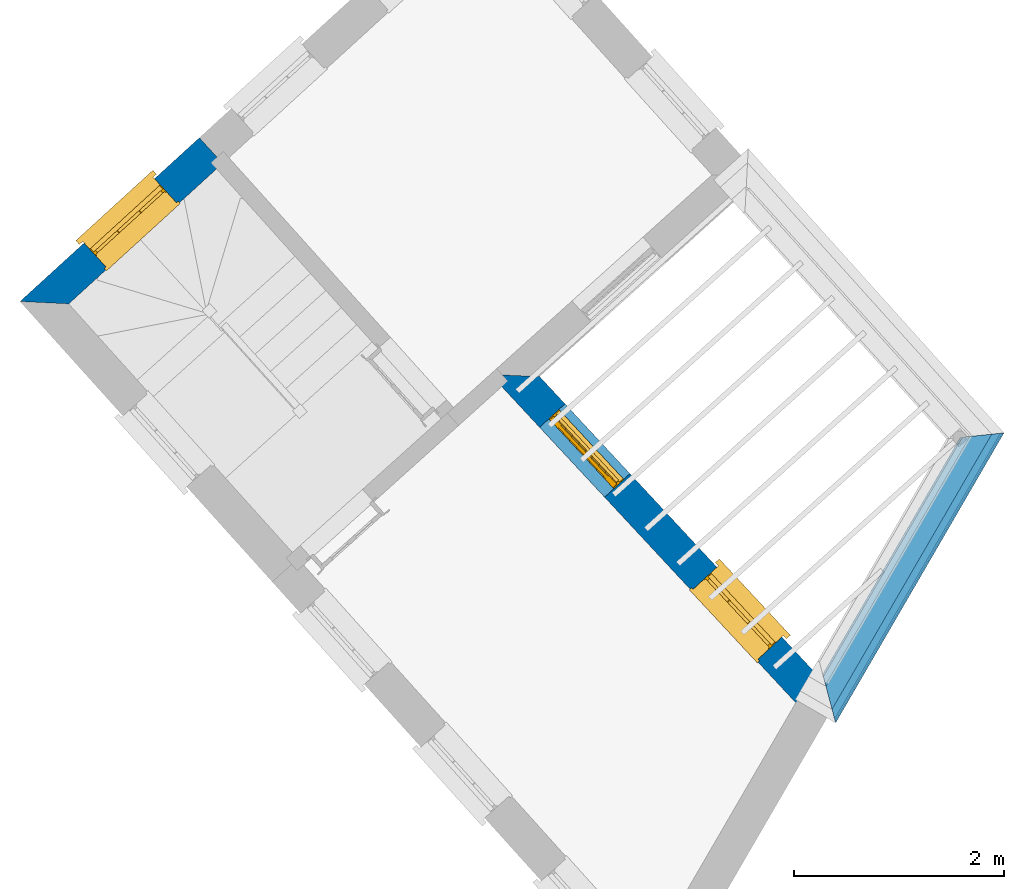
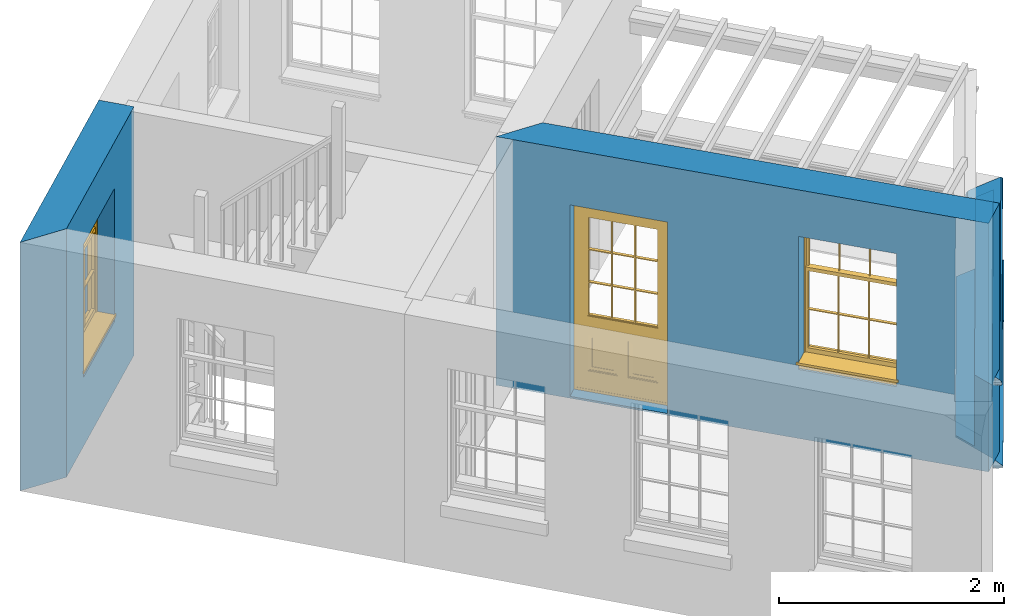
# One storey, part 3 of 7: 5 walls, 2 windows, 1 door, 3 openings.
"""IFC4 building model written with IfcOpenShell, lengths in metres."""

import ifcopenshell
import ifcopenshell.guid

model = None  # the IFC model being written
_history = None  # IfcOwnerHistory: only IFC2X3 demands one
_inside = {}  # id of a spatial element -> (the spatial element, [elements in it])
_under = {}  # id of a project, library or spatial element -> (it, [spatial elements below it])
_declared = {}  # id of a project -> (the project, [libraries it declares])
_typed = {}  # id of a type object -> (the type object, [elements of that type])
_made_of = {}  # id of a material, layer set ... -> (it, [elements and type objects made of it])


def new_model(schema):
    """Start an empty IFC model of exactly this schema.

    Asked for "IFC4X3", IfcOpenShell would pick the latest addendum, in which some entities
    have other attributes; the version numbers below select the first issue.
    IFC2X3 requires an IfcOwnerHistory on every rooted entity: one is made here for all.
    """
    global model, _history
    if schema == "IFC4X3":
        model = ifcopenshell.file(schema_version=(4, 3, 0, 0))
    else:
        model = ifcopenshell.file(schema=schema)
    _inside.clear()
    _under.clear()
    _declared.clear()
    _typed.clear()
    _made_of.clear()
    _history = None
    if model.schema == "IFC2X3":
        org = make("IfcOrganization", Name="unknown")
        user = make(
            "IfcPersonAndOrganization",
            ThePerson=make("IfcPerson", FamilyName="unknown"),
            TheOrganization=org,
        )
        app = make(
            "IfcApplication",
            ApplicationDeveloper=org,
            Version="unknown",
            ApplicationFullName="unknown",
            ApplicationIdentifier="unknown",
        )
        _history = make(
            "IfcOwnerHistory",
            OwningUser=user,
            OwningApplication=app,
            ChangeAction="ADDED",
            CreationDate=0,
        )
    return model


def make(cls, **values):
    """One entity of the class cls with the attributes given. An attribute that is None is left unset."""
    return model.create_entity(
        cls, **{name: value for name, value in values.items() if value is not None}
    )


def rooted(cls, **values):
    """An entity with a GlobalId (a new one), such as an element, a storey or a relation."""
    return make(cls, GlobalId=ifcopenshell.guid.new(), OwnerHistory=_history, **values)


def si_unit(unit_type, name, prefix=None):
    """IfcSIUnit, for example si_unit("LENGTHUNIT", "METRE", prefix="MILLI")."""
    return make("IfcSIUnit", UnitType=unit_type, Prefix=prefix, Name=name)


def assignment(units):
    """IfcUnitAssignment: the units of a project."""
    return None if units is None else make("IfcUnitAssignment", Units=units)


def point(xyz):
    """IfcCartesianPoint."""
    return None if xyz is None else make("IfcCartesianPoint", Coordinates=xyz)


def direction(xyz):
    """IfcDirection."""
    return None if xyz is None else make("IfcDirection", DirectionRatios=xyz)


def frame(location, z_axis=None, x_axis=None):
    """IfcAxis2Placement3D, a coordinate frame: its origin and axes. An axis left out is left unset."""
    return make(
        "IfcAxis2Placement3D",
        Location=point(location),
        Axis=direction(z_axis),
        RefDirection=direction(x_axis),
    )


def origin():
    """The frame at (0, 0, 0) with its axes left unset."""
    return frame((0.0, 0.0, 0.0))


def origin_with_axes():
    """The frame at (0, 0, 0) with the z axis (0, 0, 1) and the x axis (1, 0, 0) written out."""
    return frame((0.0, 0.0, 0.0), z_axis=(0.0, 0.0, 1.0), x_axis=(1.0, 0.0, 0.0))


def place(relative_to, where):
    """IfcLocalPlacement: puts the frame where relative to a parent placement (None: the world)."""
    return make(
        "IfcLocalPlacement", PlacementRelTo=relative_to, RelativePlacement=where
    )


def context(
    kind, dimensions, precision=None, world=None, true_north=None, identifier=None
):
    """IfcGeometricRepresentationContext, for example the 3D "Model" context."""
    return make(
        "IfcGeometricRepresentationContext",
        ContextIdentifier=identifier,
        ContextType=kind,
        CoordinateSpaceDimension=dimensions,
        Precision=precision,
        WorldCoordinateSystem=world,
        TrueNorth=true_north,
    )


def subcontext(parent, identifier, kind, view, scale=None):
    """IfcGeometricRepresentationSubContext, for example "Body" below "Model"."""
    return make(
        "IfcGeometricRepresentationSubContext",
        ContextIdentifier=identifier,
        ContextType=kind,
        ParentContext=parent,
        TargetScale=scale,
        TargetView=view,
    )


def project(units=None, contexts=None):
    """IfcProject with its units and contexts."""
    return rooted(
        "IfcProject",
        Name="project",
        RepresentationContexts=contexts,
        UnitsInContext=assignment(units),
    )


def spatial(cls, under=None, at=None, **own):
    """A site, building, storey or space (cls), placed at a placement, below another one or the project."""
    s = rooted(cls, ObjectPlacement=at, **own)
    if under is not None:
        _under.setdefault(under.id(), (under, []))[1].append(s)
    return s


def polyline(points):
    """IfcPolyline through the points."""
    return make("IfcPolyline", Points=[point(p) for p in points])


def outline(outer, holes=None, kind="AREA"):
    """IfcArbitraryClosedProfileDef: a profile drawn as a closed curve; with holes, ...WithVoids."""
    if holes is None:
        return make("IfcArbitraryClosedProfileDef", ProfileType=kind, OuterCurve=outer)
    return make(
        "IfcArbitraryProfileDefWithVoids",
        ProfileType=kind,
        OuterCurve=outer,
        InnerCurves=holes,
    )


def extrude(swept, where, along, depth):
    """IfcExtrudedAreaSolid: the profile swept, set in the frame where, extruded along a direction by depth."""
    return make(
        "IfcExtrudedAreaSolid",
        SweptArea=swept,
        Position=where,
        ExtrudedDirection=direction(along),
        Depth=depth,
    )


def clip(a, b, op="DIFFERENCE"):
    """IfcBooleanClippingResult: the solid a cut by the half space b."""
    return make(
        "IfcBooleanClippingResult", Operator=op, FirstOperand=a, SecondOperand=b
    )


def halfspace(plane, agree):
    """IfcHalfSpaceSolid: all space on one side of the plane z = 0 of the frame plane."""
    return make(
        "IfcHalfSpaceSolid",
        BaseSurface=make("IfcPlane", Position=plane),
        AgreementFlag=agree,
    )


def faces_of(points, faces, orient=None, outer=None):
    """IfcFace entities. A face is a list of loops; a loop is a list of indices into points, from 0.

    orient and outer hold one flag for each loop. By default every Orientation is true, the
    first loop of a face is its IfcFaceOuterBound and the others are IfcFaceBound.
    """
    made = []
    for i, loops in enumerate(faces):
        bounds = []
        for j, loop in enumerate(loops):
            is_outer = j == 0 if outer is None else outer[i][j]
            bounds.append(
                make(
                    "IfcFaceOuterBound" if is_outer else "IfcFaceBound",
                    Bound=make("IfcPolyLoop", Polygon=[points[k] for k in loop]),
                    Orientation=True if orient is None else orient[i][j],
                )
            )
        made.append(make("IfcFace", Bounds=bounds))
    return made


def faceted_brep(points, faces, orient=None, outer=None, voids=None):
    """IfcFacetedBrep: a solid bounded by flat faces; with voids (closed shells), ...WithVoids."""
    shared = [point(p) for p in points]
    hull = make("IfcClosedShell", CfsFaces=faces_of(shared, faces, orient, outer))
    if voids is None:
        return make("IfcFacetedBrep", Outer=hull)
    return make(
        "IfcFacetedBrepWithVoids",
        Outer=hull,
        Voids=[
            make(cls, CfsFaces=faces_of(shared, fs, o, b)) for cls, fs, o, b in voids
        ],
    )


def shape(context_of_items, identifier, shape_type, items):
    """IfcShapeRepresentation: the items that make up one representation, for example the "Body"."""
    return make(
        "IfcShapeRepresentation",
        ContextOfItems=context_of_items,
        RepresentationIdentifier=identifier,
        RepresentationType=shape_type,
        Items=items,
    )


def source(mapping_origin, context_of_items, identifier, shape_type, items):
    """IfcRepresentationMap: a shape defined once, which mapped items show again and again."""
    return make(
        "IfcRepresentationMap",
        MappingOrigin=mapping_origin,
        MappedRepresentation=shape(context_of_items, identifier, shape_type, items),
    )


def transform(
    local_origin,
    x_axis=None,
    y_axis=None,
    z_axis=None,
    scale=None,
    scale2=None,
    scale3=None,
    uniform=True,
):
    """IfcCartesianTransformationOperator3D, or its non-uniform kind. x_axis, y_axis, z_axis: its Axis1, 2, 3."""
    if uniform:
        return make(
            "IfcCartesianTransformationOperator3D",
            Axis1=direction(x_axis),
            Axis2=direction(y_axis),
            LocalOrigin=point(local_origin),
            Scale=scale,
            Axis3=direction(z_axis),
        )
    return make(
        "IfcCartesianTransformationOperator3DnonUniform",
        Axis1=direction(x_axis),
        Axis2=direction(y_axis),
        LocalOrigin=point(local_origin),
        Scale=scale,
        Axis3=direction(z_axis),
        Scale2=scale2,
        Scale3=scale3,
    )


def mapped(mapping_source, mapping_target):
    """IfcMappedItem: shows the shape of a source again, moved by a transform."""
    return make(
        "IfcMappedItem", MappingSource=mapping_source, MappingTarget=mapping_target
    )


def material(Name=None, Category=None):
    """IfcMaterial."""
    return make("IfcMaterial", Name=Name, Category=Category)


def layer(
    of_material, thickness, ventilated=None, Name=None, Category=None, Priority=None
):
    """IfcMaterialLayer: one layer of a wall or slab, of a material (None: an air gap)."""
    return make(
        "IfcMaterialLayer",
        Material=of_material,
        LayerThickness=thickness,
        IsVentilated=ventilated,
        Name=Name,
        Category=Category,
        Priority=Priority,
    )


def layer_set(layers, Name=None):
    """IfcMaterialLayerSet."""
    return make("IfcMaterialLayerSet", MaterialLayers=layers, LayerSetName=Name)


def layer_usage(for_layer_set, set_direction, sense, offset, extent=None):
    """IfcMaterialLayerSetUsage: how a layer set lies in its element."""
    return make(
        "IfcMaterialLayerSetUsage",
        ForLayerSet=for_layer_set,
        LayerSetDirection=set_direction,
        DirectionSense=sense,
        OffsetFromReferenceLine=offset,
        ReferenceExtent=extent,
    )


def material_profile(
    of_material, cross_section, Name=None, Category=None, Priority=None
):
    """IfcMaterialProfile: a cross section and its material."""
    return make(
        "IfcMaterialProfile",
        Name=Name,
        Material=of_material,
        Profile=cross_section,
        Priority=Priority,
        Category=Category,
    )


def profile_set(profiles, Name=None, composite=None):
    """IfcMaterialProfileSet."""
    return make(
        "IfcMaterialProfileSet",
        Name=Name,
        MaterialProfiles=profiles,
        CompositeProfile=composite,
    )


def profile_usage(for_profile_set, cardinal=None, extent=None):
    """IfcMaterialProfileSetUsage: how a profile set lies along its element."""
    return make(
        "IfcMaterialProfileSetUsage",
        ForProfileSet=for_profile_set,
        CardinalPoint=cardinal,
        ReferenceExtent=extent,
    )


def made_of(thing, what):
    """Note that an element or type object is made of a material, layer set ...; save() writes the relation."""
    if what is not None:
        _made_of.setdefault(what.id(), (what, []))[1].append(thing)
    return thing


def type_object(cls, material=None, **own):
    """A type object (cls), such as IfcWallType, which elements share."""
    return made_of(rooted(cls, **own), material)


def type_shapes(of_type, sources):
    """Give a type object the sources (RepresentationMaps) that its elements show as mapped items."""
    of_type.RepresentationMaps = sources


def element(
    cls,
    number,
    at=None,
    inside=None,
    cuts=None,
    type_object=None,
    material=None,
    context=None,
    identifier="Body",
    shape_type=None,
    held_by="IfcProductDefinitionShape",
    body=None,
    shapes=None,
    **own,
):
    """One element of the class cls, such as IfcWall. Its Tag is "e" and its number.

    at: its placement. inside: the storey or other place that contains it. cuts: it is an
    opening in that element (IfcRelVoidsElement). A single representation is given by context,
    identifier, shape_type and body (its items); several are given by shapes. held_by: the class
    of the entity that holds the representations. save() writes the other relations.
    """
    e = rooted(cls, Tag="e%d" % number, ObjectPlacement=at, **own)
    if body is not None:
        shapes = [shape(context, identifier, shape_type, body)]
    if shapes is not None:
        e.Representation = make(held_by, Representations=shapes)
    if inside is not None:
        _inside.setdefault(inside.id(), (inside, []))[1].append(e)
    if cuts is not None:
        rooted(
            "IfcRelVoidsElement", RelatingBuildingElement=cuts, RelatedOpeningElement=e
        )
    if type_object is not None:
        _typed.setdefault(type_object.id(), (type_object, []))[1].append(e)
    return made_of(e, material)


def fill(opening, filler):
    """IfcRelFillsElement: the door or window that sits in an opening."""
    return rooted(
        "IfcRelFillsElement",
        RelatingOpeningElement=opening,
        RelatedBuildingElement=filler,
    )


def aggregate(whole, parts):
    """IfcRelAggregates: a whole, such as a stair, and the parts it consists of."""
    return rooted("IfcRelAggregates", RelatingObject=whole, RelatedObjects=parts)


def save(model, path):
    """Write the relations noted so far, then the file.

    IfcRelAggregates (storeys below a building ...), IfcRelContainedInSpatialStructure (elements
    in a storey), IfcRelDefinesByType, IfcRelAssociatesMaterial and IfcRelDeclares: one each for
    every whole, place, type object, material and project.
    """
    for whole, parts in _under.values():
        aggregate(whole, parts)
    for where, things in _inside.values():
        rooted(
            "IfcRelContainedInSpatialStructure",
            RelatedElements=things,
            RelatingStructure=where,
        )
    for kind, things in _typed.values():
        rooted("IfcRelDefinesByType", RelatedObjects=things, RelatingType=kind)
    for what, things in _made_of.values():
        rooted("IfcRelAssociatesMaterial", RelatedObjects=things, RelatingMaterial=what)
    for by, libraries in _declared.values():
        rooted("IfcRelDeclares", RelatingContext=by, RelatedDefinitions=libraries)
    model.write(path)


model = new_model("IFC4")

# Units and contexts
model_context = context("Model", 3, world=origin_with_axes())
body_context = subcontext(model_context, "Body", "Model", "MODEL_VIEW")
ifc_project = project(units=[si_unit("PLANEANGLEUNIT", "RADIAN"), si_unit("MASSUNIT", "GRAM", prefix="KILO"), si_unit("FORCEUNIT", "NEWTON", prefix="KILO"), si_unit("LENGTHUNIT", "METRE"), si_unit("AREAUNIT", "SQUARE_METRE"), si_unit("VOLUMEUNIT", "CUBIC_METRE")], contexts=[model_context, model_context])

# Sites, building, storey
site_1_placement = place(None, origin_with_axes())
site_1 = spatial("IfcSite", under=ifc_project, at=site_1_placement, Name="Tamar")
site_2_placement = place(site_1_placement, origin_with_axes())
site_2 = spatial("IfcSite", under=site_1, at=site_2_placement, Name="Site plot-7", CompositionType="ELEMENT")
building_placement = place(None, origin_with_axes())
building = spatial("IfcBuilding", under=site_2, at=building_placement, Name="Building plot-7", CompositionType="ELEMENT")
storey_placement = place(None, frame((0.0, 0.0, 29.15), z_axis=(0.0, 0.0, 1.0), x_axis=(1.0, 0.0, 0.0)))
storey = spatial("IfcBuildingStorey", under=building, at=storey_placement, Name="plot-7 1", CompositionType="ELEMENT", Elevation=29.15)

# Wall, openings, door, window
ifc_material = material(Name="Masonry")
ifc_layer = layer(ifc_material, 0.33, ventilated=False)
ifc_layer_set = layer_set([ifc_layer], Name="exterior_0.08_0.25")
ifc_layer_usage = layer_usage(ifc_layer_set, "AXIS2", "POSITIVE", -0.25)
wall_type_1 = type_object("IfcWallType", Name="exterior_0.08_0.25", PredefinedType="SOLIDWALL", material=ifc_layer_set)
wall_1_placement = place(storey_placement, frame((246.620136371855, 283.334783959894, 0.0), z_axis=(0.0, 0.0, 1.0), x_axis=(-0.681081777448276, 0.732207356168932, 0.0)))
wall_1 = element("IfcWall", 1, at=wall_1_placement, inside=storey, type_object=wall_type_1, material=ifc_layer_usage, Name="exterior", context=body_context, shape_type="SweptSolid", body=[
    extrude(outline(polyline([(-0.250000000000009, 0.0799999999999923), (-0.249999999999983, -0.250000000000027), (4.00223478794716, -0.250000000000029), (4.33774979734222, 0.0799999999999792), (-0.250000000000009, 0.0799999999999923)])), origin_with_axes(), (0.0, 0.0, 1.0), 2.7),
])
opening_1_placement = place(wall_1_placement, frame((0.609103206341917, 0.0, 0.75)))
opening_1 = element("IfcOpeningElement", 2, at=opening_1_placement, cuts=wall_1, Name="My Opening", ObjectType="Opening", context=body_context, shape_type="SweptSolid", body=[
    extrude(outline(polyline([(0.0, -0.269999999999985), (0.910000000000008, -0.270000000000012), (0.909999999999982, 1.10000000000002), (-2.59792187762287e-14, 1.10000000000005), (0.0, -0.269999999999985)])), origin_with_axes(), (0.0, 0.0, 1.0), 1.445),
])
opening_2_placement = place(wall_1_placement, frame((2.73730961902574, 0.0, 0.0199999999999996)))
opening_2 = element("IfcOpeningElement", 3, at=opening_2_placement, cuts=wall_1, Name="My Opening", ObjectType="Opening", context=body_context, shape_type="SweptSolid", body=[
    extrude(outline(polyline([(0.0, -0.270000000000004), (0.910000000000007, -0.270000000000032), (0.909999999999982, 1.1), (-2.57571741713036e-14, 1.10000000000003), (0.0, -0.270000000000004)])), origin_with_axes(), (0.0, 0.0, 1.0), 2.08),
])
door_type = type_object("IfcDoorType", Name="door_panelled", OperationType="SINGLE_SWING_LEFT", PredefinedType="NOTDEFINED")
shared_shape_1 = source(origin(), body_context, "Body", "Brep", [
    faceted_brep([(0.545, 0.195, 0.265), (0.745, 0.195, 0.265), (0.745, 0.2, 0.265), (0.545, 0.2, 0.265), (0.745, 0.2, 0.58), (0.545, 0.2, 0.58), (0.545, 0.195, 0.58), (0.515, 0.19, 0.235), (0.775, 0.19, 0.235), (0.745, 0.195, 0.58), (0.515, 0.19, 0.61), (0.515, 0.185, 0.235), (0.775, 0.185, 0.235), (0.775, 0.19, 0.61), (0.515, 0.185, 0.61), (0.785, 0.185, 0.225), (0.505, 0.185, 0.225), (0.775, 0.185, 0.61), (0.505, 0.185, 0.62), (0.785, 0.185, 0.62), (0.505, 0.18, 0.225), (0.785, 0.18, 0.225), (0.505, 0.18, 0.62), (0.785, 0.18, 0.62), (0.883, 0.18, 0.075), (0.898, 0.18, 0.075), (0.405, 0.18, 0.62), (0.405, 0.18, 0.225), (0.027, 0.18, 0.075), (0.785, 0.18, 0.82), (0.125, 0.18, 0.82), (0.405, 0.185, 0.62), (0.405, 0.185, 0.225), (0.898, 0.18, 2.068), (0.027, 0.17, 0.075), (0.883, 0.17, 0.075), (0.125, 0.18, 0.225), (0.012, 0.18, 0.075), (0.785, 0.19, 0.82), (0.125, 0.19, 0.82), (0.125, 0.18, 0.62), (0.125, 0.185, 0.62), (0.395, 0.185, 0.61), (0.395, 0.185, 0.235), (0.125, 0.185, 0.225), (0.785, 0.18, 1.895), (0.027, 0.14, 0.045), (0.883, 0.14, 0.045), (0.558333, 0.19, 0.83), (0.351667, 0.19, 0.83), (0.125, 0.18, 1.895), (0.125, 0.19, 1.895), (0.785, 0.19, 1.895), (0.012, 0.18, 2.068), (0.135, 0.185, 0.61), (0.395, 0.19, 0.61), (0.395, 0.19, 0.235), (0.135, 0.185, 0.235), (0.027, 0.14, 0.027), (0.883, 0.14, 0.027), (0.568333, 0.19, 0.83), (0.558333, 0.22, 0.83), (0.351667, 0.22, 0.83), (0.341667, 0.19, 0.83), (0.135, 0.19, 1.185), (0.135, 0.19, 1.53), (0.775, 0.19, 1.53), (0.775, 0.19, 1.185), (0.135, 0.19, 0.61), (0.365, 0.195, 0.58), (0.365, 0.195, 0.265), (0.135, 0.19, 0.235), (0.568333, 0.19, 1.175), (0.558333, 0.19, 1.175), (0.775, 0.19, 0.83), (0.558333, 0.22, 1.175), (0.785, 0.22, 0.82), (0.125, 0.22, 0.82), (0.351667, 0.22, 1.175), (0.351667, 0.19, 1.175), (0.341667, 0.19, 1.175), (0.135, 0.19, 0.83), (0.135, 0.19, 1.175), (0.135, 0.22, 1.185), (0.135, 0.22, 1.53), (0.135, 0.19, 1.54), (0.351667, 0.19, 1.885), (0.558333, 0.19, 1.885), (0.775, 0.22, 1.53), (0.775, 0.22, 1.185), (0.775, 0.19, 1.175), (0.775, 0.19, 1.54), (0.165, 0.195, 0.58), (0.365, 0.2, 0.58), (0.365, 0.2, 0.265), (0.165, 0.195, 0.265), (0.568333, 0.22, 0.83), (0.568333, 0.22, 1.175), (0.568333, 0.19, 1.185), (0.558333, 0.19, 1.185), (0.775, 0.22, 0.83), (0.785, 0.23, 0.82), (0.125, 0.23, 0.82), (0.341667, 0.22, 0.83), (0.341667, 0.22, 1.175), (0.351667, 0.19, 1.185), (0.341667, 0.19, 1.185), (0.135, 0.22, 0.83), (0.341667, 0.22, 1.185), (0.125, 0.22, 1.895), (0.341667, 0.22, 1.53), (0.341667, 0.19, 1.53), (0.135, 0.19, 1.885), (0.341667, 0.19, 1.54), (0.341667, 0.19, 1.885), (0.558333, 0.22, 1.885), (0.351667, 0.22, 1.885), (0.568333, 0.19, 1.885), (0.785, 0.22, 1.895), (0.568333, 0.22, 1.185), (0.568333, 0.19, 1.53), (0.568333, 0.22, 1.53), (0.568333, 0.19, 1.54), (0.775, 0.19, 1.885), (0.165, 0.2, 0.58), (0.165, 0.2, 0.265), (0.775, 0.22, 1.175), (0.558333, 0.19, 1.53), (0.351667, 0.22, 1.185), (0.558333, 0.22, 1.185), (0.505, 0.23, 0.62), (0.405, 0.23, 0.62), (0.125, 0.23, 1.895), (0.785, 0.23, 1.895), (0.351667, 0.19, 1.53), (0.135, 0.22, 1.175), (0.135, 0.22, 1.54), (0.341667, 0.22, 1.54), (0.135, 0.22, 1.885), (0.351667, 0.19, 1.54), (0.558333, 0.22, 1.54), (0.558333, 0.19, 1.54), (0.351667, 0.22, 1.54), (0.775, 0.22, 1.54), (0.568333, 0.22, 1.54), (0.775, 0.22, 1.885), (0.558333, 0.22, 1.53), (0.405, 0.23, 0.225), (0.505, 0.23, 0.225), (0.125, 0.23, 0.62), (0.785, 0.23, 0.62), (0.012, 0.23, 2.068), (0.898, 0.23, 2.068), (0.351667, 0.22, 1.53), (0.341667, 0.22, 1.885), (0.568333, 0.22, 1.885), (0.405, 0.225, 0.225), (0.405, 0.225, 0.62), (0.505, 0.225, 0.62), (0.505, 0.225, 0.225), (0.898, 0.23, 0.027), (0.012, 0.23, 0.027), (0.125, 0.225, 0.62), (0.785, 0.225, 0.62), (0.395, 0.225, 0.235), (0.395, 0.225, 0.61), (0.125, 0.23, 0.225), (0.125, 0.225, 0.225), (0.515, 0.225, 0.61), (0.515, 0.225, 0.235), (0.785, 0.23, 0.225), (0.785, 0.225, 0.225), (0.135, 0.225, 0.61), (0.775, 0.225, 0.61), (0.135, 0.225, 0.235), (0.395, 0.22, 0.235), (0.395, 0.22, 0.61), (0.515, 0.22, 0.61), (0.515, 0.22, 0.235), (0.775, 0.225, 0.235), (0.135, 0.22, 0.61), (0.775, 0.22, 0.61), (0.135, 0.22, 0.235), (0.365, 0.215, 0.265), (0.365, 0.215, 0.58), (0.545, 0.215, 0.58), (0.545, 0.215, 0.265), (0.775, 0.22, 0.235), (0.165, 0.215, 0.58), (0.745, 0.215, 0.58), (0.165, 0.215, 0.265), (0.365, 0.21, 0.58), (0.365, 0.21, 0.265), (0.545, 0.21, 0.58), (0.545, 0.21, 0.265), (0.745, 0.215, 0.265), (0.165, 0.21, 0.58), (0.745, 0.21, 0.58), (0.165, 0.21, 0.265), (0.745, 0.21, 0.265), (0.885, 0.178, 0.025), (0.025, 0.178, 0.025), (0.025, 0.15, 0.025), (0.885, 0.15, 0.025), (0.9, 0.23, 0.025), (0.01, 0.23, 0.025), (0.9, 0.178, 0.025), (0.91, 0.23, 0.0), (0.0, 0.23, 0.0), (0.01, 0.178, 0.025), (0.9, 0.178, 2.07), (0.9, 0.23, 2.07), (0.885, 0.178, 2.055), (0.91, 0.23, 2.08), (0.01, 0.23, 2.07), (0.0, 0.23, 2.08), (0.01, 0.178, 2.07), (0.025, 0.178, 2.055), (0.0, 0.1, 2.08), (0.91, 0.1, 2.08), (0.01, 0.1, 2.07), (0.9, 0.1, 2.07), (0.01, 0.15, 2.07), (0.9, 0.15, 2.07), (0.0, 0.1, 0.0), (0.91, 0.1, 0.0), (0.01, 0.1, 0.025), (0.9, 0.1, 0.025), (0.01, 0.15, 0.025), (0.025, 0.15, 2.055), (0.9, 0.15, 0.025), (0.885, 0.15, 2.055), (0.898, 0.18, 0.027), (0.012, 0.18, 0.027), (0.883, 0.18, 0.027), (0.027, 0.18, 0.027)], [[[0, 1, 2, 3]], [[2, 4, 5, 3]], [[0, 3, 5, 6]], [[1, 0, 7, 8]], [[9, 4, 2, 1]], [[9, 6, 5, 4]], [[0, 6, 10, 7]], [[8, 7, 11, 12]], [[8, 13, 9, 1]], [[13, 10, 6, 9]], [[7, 10, 14, 11]], [[15, 12, 11, 16]], [[12, 17, 13, 8]], [[17, 14, 10, 13]], [[18, 16, 11, 14]], [[15, 19, 17, 12]], [[15, 16, 20, 21]], [[14, 17, 19, 18]], [[16, 18, 22, 20]], [[21, 23, 19, 15]], [[24, 25, 21, 20]], [[23, 22, 18, 19]], [[20, 22, 26, 27]], [[23, 21, 25]], [[28, 24, 20, 27]], [[22, 23, 29]], [[29, 30, 26, 22]], [[27, 26, 31, 32]], [[23, 25, 33, 29]], [[34, 35, 24, 28]], [[28, 27, 36, 37]], [[38, 39, 30, 29]], [[26, 30, 40]], [[26, 40, 41, 31]], [[42, 43, 32, 31]], [[32, 44, 36, 27]], [[33, 45, 29]], [[46, 47, 35, 34]], [[36, 40, 37]], [[39, 38, 48, 49]], [[50, 30, 39, 51]], [[29, 45, 52, 38]], [[53, 37, 40, 30]], [[44, 41, 40, 36]], [[31, 41, 54, 42]], [[43, 42, 55, 56]], [[57, 44, 32, 43]], [[50, 45, 33, 53]], [[47, 46, 58, 59]], [[60, 48, 38]], [[49, 48, 61, 62]], [[49, 63, 39]], [[50, 53, 30]], [[51, 39, 64, 65]], [[45, 50, 51, 52]], [[66, 67, 38, 52]], [[57, 54, 41, 44]], [[42, 54, 68, 55]], [[56, 55, 69, 70]], [[56, 71, 57, 43]], [[60, 72, 73, 48]], [[60, 38, 74]], [[48, 73, 75, 61]], [[76, 77, 62, 61]], [[62, 78, 79, 49]], [[49, 79, 80, 63]], [[63, 81, 39]], [[82, 64, 39]], [[65, 64, 83, 84]], [[85, 51, 65]], [[52, 51, 86, 87]], [[88, 89, 67, 66]], [[90, 38, 67]], [[91, 66, 52]], [[71, 68, 54, 57]], [[55, 68, 92, 69]], [[69, 93, 94, 70]], [[70, 95, 71, 56]], [[96, 97, 72, 60]], [[73, 72, 98, 99]], [[74, 38, 90]], [[100, 96, 60, 74]], [[75, 73, 79, 78]], [[61, 75, 97, 96]], [[101, 102, 77, 76]], [[77, 103, 62]], [[96, 76, 61]], [[103, 104, 78, 62]], [[80, 79, 105, 106]], [[63, 80, 104, 103]], [[81, 63, 103, 107]], [[81, 82, 39]], [[106, 64, 82, 80]], [[106, 108, 83, 64]], [[84, 83, 77, 109]], [[110, 111, 65, 84]], [[112, 51, 85]], [[113, 85, 65, 111]], [[114, 86, 51]], [[115, 87, 86, 116]], [[117, 52, 87]], [[118, 76, 89, 88]], [[119, 98, 67, 89]], [[120, 121, 88, 66]], [[67, 98, 72, 90]], [[91, 122, 120, 66]], [[91, 52, 123]], [[95, 92, 68, 71]], [[69, 92, 124, 93]], [[94, 93, 124, 125]], [[94, 125, 95, 70]], [[72, 97, 126, 90]], [[127, 99, 98, 120]], [[99, 105, 79, 73]], [[74, 90, 126, 100]], [[96, 100, 76]], [[128, 129, 75, 78]], [[97, 75, 129, 119]], [[130, 131, 102, 101]], [[109, 77, 102, 132]], [[133, 101, 76, 118]], [[77, 107, 103]], [[78, 104, 108, 128]], [[111, 106, 105, 134]], [[104, 80, 82, 135]], [[107, 135, 82, 81]], [[110, 108, 106, 111]], [[104, 135, 83, 108]], [[83, 135, 77]], [[136, 84, 109]], [[110, 84, 136, 137]], [[114, 51, 112]], [[85, 136, 138, 112]], [[113, 137, 136, 85]], [[111, 134, 139, 113]], [[86, 114, 113, 139]], [[140, 141, 87, 115]], [[139, 142, 116, 86]], [[109, 118, 115, 116]], [[117, 123, 52]], [[117, 87, 141, 122]], [[126, 89, 76]], [[143, 118, 88]], [[120, 98, 119, 121]], [[119, 89, 126, 97]], [[144, 143, 88, 121]], [[144, 122, 91, 143]], [[127, 120, 122, 141]], [[143, 91, 123, 145]], [[124, 92, 95, 125]], [[146, 129, 99, 127]], [[99, 129, 128, 105]], [[100, 126, 76]], [[121, 119, 129, 146]], [[147, 131, 130, 148]], [[131, 149, 102]], [[130, 101, 150]], [[102, 151, 132]], [[118, 109, 132, 133]], [[101, 133, 152]], [[107, 77, 135]], [[153, 128, 108, 110]], [[134, 105, 128, 153]], [[109, 138, 136]], [[153, 110, 137, 142]], [[154, 114, 112, 138]], [[137, 113, 114, 154]], [[141, 139, 134, 127]], [[141, 140, 142, 139]], [[144, 140, 115, 155]], [[142, 137, 154, 116]], [[155, 115, 118]], [[116, 154, 109]], [[117, 155, 145, 123]], [[122, 144, 155, 117]], [[143, 145, 118]], [[121, 146, 140, 144]], [[146, 127, 134, 153]], [[156, 157, 131, 147]], [[148, 130, 158, 159]], [[148, 160, 161, 147]], [[157, 162, 149, 131]], [[161, 151, 102, 149]], [[101, 152, 160, 150]], [[163, 158, 130, 150]], [[151, 152, 133, 132]], [[154, 138, 109]], [[142, 140, 146, 153]], [[145, 155, 118]], [[157, 156, 164, 165]], [[147, 166, 167, 156]], [[168, 169, 159, 158]], [[170, 148, 159, 171]], [[148, 170, 160]], [[166, 147, 161]], [[172, 162, 157, 165]], [[166, 149, 162, 167]], [[166, 161, 149]], [[150, 160, 170]], [[163, 173, 168, 158]], [[171, 163, 150, 170]], [[174, 164, 156, 167]], [[175, 176, 165, 164]], [[169, 168, 177, 178]], [[171, 159, 169, 179]], [[167, 162, 172, 174]], [[176, 180, 172, 165]], [[179, 173, 163, 171]], [[181, 177, 168, 173]], [[164, 174, 182, 175]], [[183, 184, 176, 175]], [[178, 177, 185, 186]], [[179, 169, 178, 187]], [[174, 172, 180, 182]], [[184, 188, 180, 176]], [[187, 181, 173, 179]], [[189, 185, 177, 181]], [[175, 182, 190, 183]], [[191, 184, 183, 192]], [[185, 193, 194, 186]], [[187, 178, 186, 195]], [[182, 180, 188, 190]], [[191, 196, 188, 184]], [[195, 189, 181, 187]], [[197, 193, 185, 189]], [[183, 190, 198, 192]], [[198, 196, 191, 192]], [[194, 193, 197, 199]], [[195, 186, 194, 199]], [[188, 196, 198, 190]], [[197, 189, 195, 199]], [[200, 201, 202, 203]], [[201, 200, 204, 205]], [[206, 204, 200]], [[204, 207, 208, 205]], [[209, 201, 205]], [[210, 211, 204, 206]], [[206, 200, 212, 210]], [[211, 213, 207, 204]], [[214, 205, 208, 215]], [[216, 217, 201, 209]], [[205, 214, 216, 209]], [[216, 214, 211, 210]], [[210, 212, 217, 216]], [[214, 215, 213, 211]], [[218, 219, 213, 215]], [[219, 218, 220, 221]], [[221, 220, 222, 223]], [[215, 208, 224, 218]], [[225, 224, 208, 207]], [[224, 226, 220, 218]], [[224, 225, 227, 226]], [[219, 225, 207, 213]], [[228, 222, 220, 226]], [[219, 221, 227, 225]], [[226, 227, 203, 202]], [[202, 229, 222, 228]], [[228, 226, 202]], [[227, 221, 223, 230]], [[230, 203, 227]], [[217, 229, 202, 201]], [[231, 223, 222, 229]], [[230, 223, 231, 203]], [[231, 229, 217, 212]], [[212, 200, 203, 231]], [[33, 152, 151, 53]], [[25, 160, 152, 33]], [[161, 37, 53, 151]], [[232, 160, 25]], [[161, 233, 37]], [[160, 232, 234]], [[24, 234, 232, 25]], [[233, 161, 235]], [[37, 233, 235, 28]], [[161, 160, 234, 235]], [[35, 47, 234, 24]], [[28, 235, 46, 34]], [[58, 235, 234, 59]], [[59, 234, 47]], [[58, 46, 235]]]),
])
type_shapes(door_type, [shared_shape_1])
door_placement = place(storey_placement, frame((244.953500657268, 285.522954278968, 0.0199999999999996), z_axis=(0.0, 0.0, 1.0), x_axis=(-0.619784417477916, 0.666308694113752, 0.0)))
door = element("IfcDoor", 4, at=door_placement, inside=storey, type_object=door_type, Name="bedroom outside door", OverallHeight=2.08, OverallWidth=0.91, context=body_context, shape_type="MappedRepresentation", body=[
    mapped(shared_shape_1, transform((0.0, 0.0, 0.0), scale=1.0)),
])
fill(opening_2, door)
window_type = type_object("IfcWindowType", Name="sash_shorter", PartitioningType="DOUBLE_PANEL_HORIZONTAL", PredefinedType="NOTDEFINED")
shared_shape_2 = source(origin(), body_context, "Body", "Brep", [
    faceted_brep([(0.876875, 0.145, 0.999097), (0.876875, 0.145, 1.411875), (0.9, 0.145, 1.435), (0.033125, 0.145, 1.411875), (0.033125, 0.145, 0.999097), (0.01, 0.145, 1.435), (0.033125, 0.115, 1.411875), (0.01, 0.115, 1.435), (0.033125, 0.115, 0.999097), (0.876875, 0.115, 1.411875), (0.876875, 0.115, 0.999097), (0.9, 0.115, 1.435), (0.033125, 0.145, 0.960972), (0.01, 0.145, 0.960972), (0.033125, 0.145, 0.548195), (0.876875, 0.145, 0.960972), (0.876875, 0.145, 0.548195), (0.9, 0.145, 0.960972), (0.876875, 0.145, 0.538195), (0.876875, 0.145, 0.125417), (0.9, 0.145, 0.077167), (0.033125, 0.145, 0.125417), (0.033125, 0.145, 0.538195), (0.01, 0.145, 0.077167), (0.9, 0.115, 0.960972), (0.01, 0.115, 0.960972), (-0.0425, 0.0, 0.01), (-0.0425, -0.05, 0.001667), (0.0, 0.0, 0.01), (0.9525, 0.0, 0.01), (0.91, 0.0, 0.01), (0.9525, -0.05, 0.001667), (-0.02, 0.33, 0.077167), (0.0, 0.33, 0.077167), (-0.02, 0.36, 0.077167), (0.0, 0.19, 0.077167), (0.01, 0.19, 0.077167), (0.91, 0.19, 0.077167), (0.91, 0.33, 0.077167), (0.9, 0.19, 0.077167), (0.93, 0.33, 0.077167), (0.93, 0.36, 0.077167), (0.01, 0.145, 0.999097), (0.01, 0.175, 0.999097), (0.9, 0.145, 0.999097), (0.9, 0.175, 0.999097), (0.876875, 0.175, 0.125417), (0.876875, 0.175, 0.538195), (0.9, 0.175, 0.077167), (0.876875, 0.175, 0.548195), (0.876875, 0.175, 0.960972), (0.033125, 0.175, 0.125417), (0.01, 0.175, 0.077167), (0.033125, 0.175, 0.538195), (0.033125, 0.175, 0.960972), (0.033125, 0.175, 0.548195), (-0.02, 0.33, 0.052167), (-0.02, 0.36, 0.052167), (0.93, 0.36, 0.052167), (0.93, 0.33, 0.052167), (0.91, 0.33, 0.052167), (0.0, 0.33, 0.052167), (0.91, 0.1, 0.026667), (0.0, 0.1, 0.026667), (-0.0425, -0.05, -0.123333), (0.9525, -0.05, -0.123333), (-0.0425, 0.0, -0.123333), (0.9525, 0.0, -0.123333), (0.01, 0.19, 1.435), (0.9, 0.19, 1.435), (0.0, 0.19, 1.445), (0.91, 0.19, 1.445), (0.01, 0.1, 0.077167), (0.9, 0.1, 0.077167), (0.592292, 0.145, 0.125417), (0.592292, 0.175, 0.125417), (0.317708, 0.175, 0.125417), (0.317708, 0.145, 0.125417), (0.592292, 0.145, 0.548195), (0.317708, 0.145, 0.548195), (0.317708, 0.145, 0.538195), (0.592292, 0.145, 0.538195), (0.592292, 0.175, 0.548195), (0.317708, 0.175, 0.548195), (0.602292, 0.175, 0.548195), (0.602292, 0.145, 0.548195), (0.317708, 0.175, 0.538195), (0.307708, 0.175, 0.125417), (0.307708, 0.175, 0.538195), (0.602292, 0.175, 0.538195), (0.602292, 0.175, 0.125417), (0.592292, 0.175, 0.538195), (0.307708, 0.175, 0.548195), (0.317708, 0.175, 0.960972), (0.307708, 0.175, 0.960972), (0.602292, 0.175, 0.960972), (0.592292, 0.175, 0.960972), (0.307708, 0.145, 0.538195), (0.307708, 0.145, 0.125417), (0.307708, 0.145, 0.548195), (0.307708, 0.145, 0.960972), (0.592292, 0.145, 0.960972), (0.317708, 0.145, 0.960972), (0.602292, 0.145, 0.960972), (0.602292, 0.145, 0.538195), (0.602292, 0.145, 0.125417), (0.317708, 0.115, 1.411875), (0.307708, 0.115, 1.411875), (0.307708, 0.115, 0.999097), (0.317708, 0.115, 0.999097), (0.602292, 0.115, 1.411875), (0.592292, 0.115, 1.411875), (0.592292, 0.115, 0.999097), (0.602292, 0.115, 0.999097), (0.317708, 0.145, 0.999097), (0.307708, 0.145, 0.999097), (0.307708, 0.145, 1.411875), (0.317708, 0.145, 1.411875), (0.602292, 0.145, 0.999097), (0.592292, 0.145, 0.999097), (0.592292, 0.145, 1.411875), (0.602292, 0.145, 1.411875), (0.91, 0.1, 1.445), (0.9, 0.1, 1.435), (0.01, 0.1, 1.435), (0.0, 0.1, 1.445), (0.91, 0.0, 0.0), (0.0, 0.0, 0.0), (0.91, 0.33, 0.0), (0.0, 0.33, 0.0)], [[[0, 1, 2]], [[3, 4, 5]], [[6, 7, 8]], [[9, 10, 11]], [[12, 13, 14]], [[15, 16, 17]], [[18, 19, 20]], [[21, 22, 23]], [[24, 15, 17]], [[13, 12, 25]], [[26, 27, 28]], [[29, 30, 31]], [[32, 33, 34]], [[35, 36, 33]], [[37, 38, 39]], [[40, 41, 38]], [[42, 4, 43]], [[44, 45, 0]], [[46, 47, 48]], [[49, 50, 45]], [[51, 52, 53]], [[54, 55, 43]], [[38, 33, 36, 39]], [[41, 34, 33, 38]], [[56, 32, 34, 57]], [[57, 34, 41, 58]], [[58, 41, 40, 59]], [[57, 58, 60, 61]], [[52, 48, 39, 36]], [[62, 63, 28, 30]], [[27, 31, 30, 28]], [[27, 64, 65, 31]], [[66, 67, 65, 64]], [[2, 5, 68, 69]], [[68, 70, 71, 69]], [[20, 23, 72, 73]], [[73, 72, 63, 62]], [[74, 75, 76, 77]], [[78, 79, 80, 81]], [[78, 82, 83, 79]], [[16, 49, 84, 85]], [[86, 76, 87, 88]], [[89, 90, 75, 91]], [[92, 88, 53, 55]], [[82, 91, 86, 83]], [[93, 83, 92, 94]], [[95, 84, 82, 96]], [[89, 84, 49, 47]], [[97, 88, 87, 98]], [[22, 53, 88, 97]], [[81, 91, 75, 74]], [[80, 86, 91, 81]], [[77, 76, 86, 80]], [[99, 92, 55, 14]], [[100, 94, 92, 99]], [[101, 96, 82, 78]], [[79, 83, 93, 102]], [[85, 84, 95, 103]], [[104, 89, 47, 18]], [[105, 90, 89, 104]], [[104, 18, 16, 85]], [[80, 97, 98, 77]], [[104, 81, 74, 105]], [[103, 101, 78, 85]], [[99, 14, 22, 97]], [[102, 100, 99, 79]], [[106, 107, 108, 109]], [[110, 111, 112, 113]], [[114, 115, 116, 117]], [[118, 119, 120, 121]], [[107, 116, 115, 108]], [[111, 120, 119, 112]], [[109, 114, 117, 106]], [[113, 118, 121, 110]], [[85, 78, 81, 104]], [[84, 89, 91, 82]], [[83, 86, 88, 92]], [[79, 99, 97, 80]], [[109, 112, 119, 114]], [[102, 93, 96, 101]], [[106, 117, 120, 111]], [[98, 87, 51, 21]], [[6, 3, 116, 107]], [[110, 121, 1, 9]], [[19, 46, 90, 105]], [[26, 66, 64, 27]], [[29, 31, 65, 67]], [[25, 24, 112, 109]], [[11, 7, 106, 111]], [[75, 48, 52, 76]], [[43, 45, 96, 93]], [[45, 43, 114, 119]], [[5, 2, 120, 117]], [[24, 25, 102, 101]], [[42, 5, 4]], [[2, 44, 0]], [[49, 45, 48, 47]], [[52, 43, 55, 53]], [[14, 13, 23, 22]], [[20, 17, 16, 18]], [[24, 11, 10]], [[25, 8, 7]], [[8, 4, 3, 6]], [[9, 1, 0, 10]], [[15, 50, 49, 16]], [[18, 47, 46, 19]], [[21, 51, 53, 22]], [[14, 55, 54, 12]], [[44, 2, 69, 45]], [[68, 5, 42, 43]], [[36, 35, 70, 68]], [[39, 69, 71, 37]], [[62, 122, 123, 73]], [[63, 72, 124, 125]], [[8, 108, 115, 4]], [[113, 10, 0, 118]], [[94, 100, 12, 54]], [[17, 20, 73, 24]], [[72, 23, 13, 25]], [[52, 36, 68, 43]], [[69, 39, 48, 45]], [[11, 24, 73, 123]], [[7, 124, 72, 25]], [[23, 77, 98]], [[98, 21, 23]], [[105, 74, 20]], [[20, 19, 105]], [[20, 74, 77, 23]], [[113, 112, 24]], [[24, 10, 113]], [[25, 109, 108]], [[108, 8, 25]], [[110, 9, 11]], [[11, 111, 110]], [[7, 6, 107]], [[107, 106, 7]], [[5, 117, 116]], [[116, 3, 5]], [[121, 120, 2]], [[2, 1, 121]], [[11, 123, 124, 7]], [[122, 125, 124, 123]], [[43, 93, 94]], [[94, 54, 43]], [[96, 45, 95]], [[50, 95, 45]], [[15, 103, 95, 50]], [[48, 75, 90]], [[90, 46, 48]], [[87, 76, 52]], [[52, 51, 87]], [[103, 15, 24]], [[24, 101, 103]], [[100, 102, 25]], [[25, 12, 100]], [[115, 114, 43]], [[43, 4, 115]], [[118, 0, 45]], [[45, 119, 118]], [[71, 70, 125, 122]], [[70, 35, 63, 125]], [[122, 62, 37, 71]], [[126, 67, 66, 127]], [[60, 58, 59]], [[38, 60, 59, 40]], [[61, 56, 57]], [[32, 56, 61, 33]], [[61, 60, 128, 129]], [[62, 60, 38, 37]], [[126, 128, 60, 62]], [[33, 61, 63, 35]], [[61, 129, 127, 63]], [[128, 126, 127, 129]], [[28, 127, 66, 26]], [[63, 127, 28]], [[29, 67, 126, 30]], [[30, 126, 62]]]),
])
type_shapes(window_type, [shared_shape_2])
window_1_placement = place(storey_placement, frame((246.402983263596, 283.964665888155, 0.75), z_axis=(0.0, 0.0, 1.0), x_axis=(-0.619784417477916, 0.666308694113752, 0.0)))
window_1 = element("IfcWindow", 5, at=window_1_placement, inside=storey, type_object=window_type, Name="bedroom outside window", OverallHeight=1.445, OverallWidth=0.91, context=body_context, shape_type="MappedRepresentation", body=[
    mapped(shared_shape_2, transform((0.0, 0.0, 0.0), scale=1.0)),
])
fill(opening_1, window_1)

# Wall, opening, window
wall_2_placement = place(storey_placement, frame((241.00001220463, 288.529157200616, 0.0), z_axis=(0.0, 0.0, 1.0), x_axis=(-0.738612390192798, -0.67413035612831, 0.0)))
wall_2 = element("IfcWall", 6, at=wall_2_placement, inside=storey, type_object=wall_type_1, material=ifc_layer_usage, Name="exterior", context=body_context, shape_type="SweptSolid", body=[
    extrude(outline(polyline([(-3.09233047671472e-14, 0.0799999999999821), (4.86430765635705e-14, -0.249999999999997), (2.31704891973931, -0.250000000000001), (1.98939049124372, 0.0800000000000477), (-3.09233047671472e-14, 0.0799999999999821)])), origin_with_axes(), (0.0, 0.0, 1.0), 2.7),
])
opening_3_placement = place(wall_2_placement, frame((0.579411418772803, 0.0, 0.75)))
opening_3 = element("IfcOpeningElement", 7, at=opening_3_placement, cuts=wall_2, Name="My Opening", ObjectType="Opening", context=body_context, shape_type="SweptSolid", body=[
    extrude(outline(polyline([(0.0, -0.269999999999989), (0.910000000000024, -0.269999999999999), (0.909999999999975, 1.09999999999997), (-4.85167461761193e-14, 1.09999999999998), (0.0, -0.269999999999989)])), origin_with_axes(), (0.0, 0.0, 1.0), 1.445),
])
window_2_placement = place(storey_placement, frame((240.390036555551, 288.337983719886, 0.75), z_axis=(0.0, 0.0, 1.0), x_axis=(-0.672137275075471, -0.61345862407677, 0.0)))
window_2 = element("IfcWindow", 8, at=window_2_placement, inside=storey, type_object=window_type, Name="circulation outside window", OverallHeight=1.445, OverallWidth=0.91, context=body_context, shape_type="MappedRepresentation", body=[
    mapped(shared_shape_2, transform((0.0, 0.0, 0.0), scale=1.0)),
])
fill(opening_3, window_2)

# Walls
ifc_material_profile_1 = material_profile(None, outline(polyline([(0.25, 0.0), (0.25, 0.795), (0.09, 0.795), (0.09, 0.02), (-0.08, 0.02), (-0.08, 0.0), (0.25, 0.0)])))
ifc_profile_set_1 = profile_set([ifc_material_profile_1])
ifc_profile_usage_1 = profile_usage(ifc_profile_set_1)
wall_type_2 = type_object("IfcWallType", Name="parapet_0", PredefinedType="PARAPET", material=ifc_profile_set_1)
wall_3_placement = place(storey_placement, frame((248.584814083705, 286.719090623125, 0.0), z_axis=(-0.502058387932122, -0.86483372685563, 0.0), x_axis=(0.86483372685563, -0.502058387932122, 0.0)))
element("IfcWall", 9, at=wall_3_placement, inside=storey, type_object=wall_type_2, material=ifc_profile_usage_1, Name="parapet_0", context=body_context, shape_type="Clipping", body=[
    clip(clip(extrude(outline(polyline([(0.25, 0.0), (0.25, 0.795), (0.09, 0.795), (0.09, 0.02), (-0.08, 0.02), (-0.08, 0.0), (0.25, 0.0)])), origin_with_axes(), (0.0, 0.0, 1.0), 4.60324546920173), halfspace(frame((0.0, 0.0, 3.60324546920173), z_axis=(0.707106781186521, 0.0, -0.707106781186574), x_axis=(0.0, 1.0, 0.0)), True)), halfspace(frame((0.0, 0.0, 1.0), z_axis=(-0.588596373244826, 0.0, -0.808427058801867), x_axis=(0.0, 1.0, 0.0)), False)),
])
ifc_material_profile_2 = material_profile(None, outline(polyline([(0.265, 0.795), (0.268, 0.807), (0.274, 0.816), (0.283, 0.822), (0.295, 0.825), (0.295, 0.84), (0.305, 0.84), (0.317, 0.842), (0.326, 0.849), (0.333, 0.858), (0.335, 0.87), (0.333, 0.882), (0.326, 0.891), (0.317, 0.898), (0.305, 0.9), (0.035, 0.9), (0.023, 0.898), (0.014, 0.891), (0.007, 0.882), (0.005, 0.87), (0.007, 0.858), (0.014, 0.849), (0.023, 0.842), (0.035, 0.84), (0.045, 0.84), (0.045, 0.825), (0.057, 0.822), (0.066, 0.816), (0.072, 0.807), (0.075, 0.795), (0.265, 0.795)])))
ifc_profile_set_2 = profile_set([ifc_material_profile_2])
ifc_profile_usage_2 = profile_usage(ifc_profile_set_2)
wall_type_3 = type_object("IfcWallType", Name="parapet_1", PredefinedType="PARAPET", material=ifc_profile_set_2)
wall_4_placement = place(storey_placement, frame((248.584814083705, 286.719090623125, 0.0), z_axis=(-0.502058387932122, -0.86483372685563, 0.0), x_axis=(0.86483372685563, -0.502058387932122, 0.0)))
element("IfcWall", 10, at=wall_4_placement, inside=storey, type_object=wall_type_3, material=ifc_profile_usage_2, Name="parapet_1", context=body_context, shape_type="Clipping", body=[
    clip(clip(extrude(outline(polyline([(0.265, 0.795), (0.268, 0.807), (0.274, 0.816), (0.283, 0.822), (0.295, 0.825), (0.295, 0.84), (0.305, 0.84), (0.317, 0.842), (0.326, 0.849), (0.333, 0.858), (0.335, 0.87), (0.333, 0.882), (0.326, 0.891), (0.317, 0.898), (0.305, 0.9), (0.035, 0.9), (0.023, 0.898), (0.014, 0.891), (0.007, 0.882), (0.005, 0.87), (0.007, 0.858), (0.014, 0.849), (0.023, 0.842), (0.035, 0.84), (0.045, 0.84), (0.045, 0.825), (0.057, 0.822), (0.066, 0.816), (0.072, 0.807), (0.075, 0.795), (0.265, 0.795)])), origin_with_axes(), (0.0, 0.0, 1.0), 4.60324546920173), halfspace(frame((0.0, 0.0, 3.60324546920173), z_axis=(0.707106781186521, 0.0, -0.707106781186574), x_axis=(0.0, 1.0, 0.0)), True)), halfspace(frame((0.0, 0.0, 1.0), z_axis=(-0.588596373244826, 0.0, -0.808427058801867), x_axis=(0.0, 1.0, 0.0)), False)),
])
ifc_material_profile_3 = material_profile(None, outline(polyline([(0.25, -0.1), (0.265, -0.1), (0.265, -0.085), (0.278, -0.084), (0.289, -0.081), (0.301, -0.074), (0.309, -0.065), (0.315, -0.055), (0.324, -0.044), (0.334, -0.038), (0.345, -0.035), (0.345, -0.015), (0.25, 0.0), (0.25, -0.1)])))
ifc_profile_set_3 = profile_set([ifc_material_profile_3])
ifc_profile_usage_3 = profile_usage(ifc_profile_set_3)
wall_type_4 = type_object("IfcWallType", Name="parapet_2", PredefinedType="PARAPET", material=ifc_profile_set_3)
wall_5_placement = place(storey_placement, frame((248.584814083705, 286.719090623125, 0.0), z_axis=(-0.502058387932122, -0.86483372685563, 0.0), x_axis=(0.86483372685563, -0.502058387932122, 0.0)))
element("IfcWall", 11, at=wall_5_placement, inside=storey, type_object=wall_type_4, material=ifc_profile_usage_3, Name="parapet_2", context=body_context, shape_type="Clipping", body=[
    clip(clip(extrude(outline(polyline([(0.25, -0.1), (0.265, -0.1), (0.265, -0.085), (0.278, -0.084), (0.289, -0.081), (0.301, -0.074), (0.309, -0.065), (0.315, -0.055), (0.324, -0.044), (0.334, -0.038), (0.345, -0.035), (0.345, -0.015), (0.25, 0.0), (0.25, -0.1)])), origin_with_axes(), (0.0, 0.0, 1.0), 4.60324546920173), halfspace(frame((0.0, 0.0, 3.60324546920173), z_axis=(0.707106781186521, 0.0, -0.707106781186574), x_axis=(0.0, 1.0, 0.0)), True)), halfspace(frame((0.0, 0.0, 1.0), z_axis=(-0.588596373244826, 0.0, -0.808427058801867), x_axis=(0.0, 1.0, 0.0)), False)),
])

save(model, "model.ifc")
